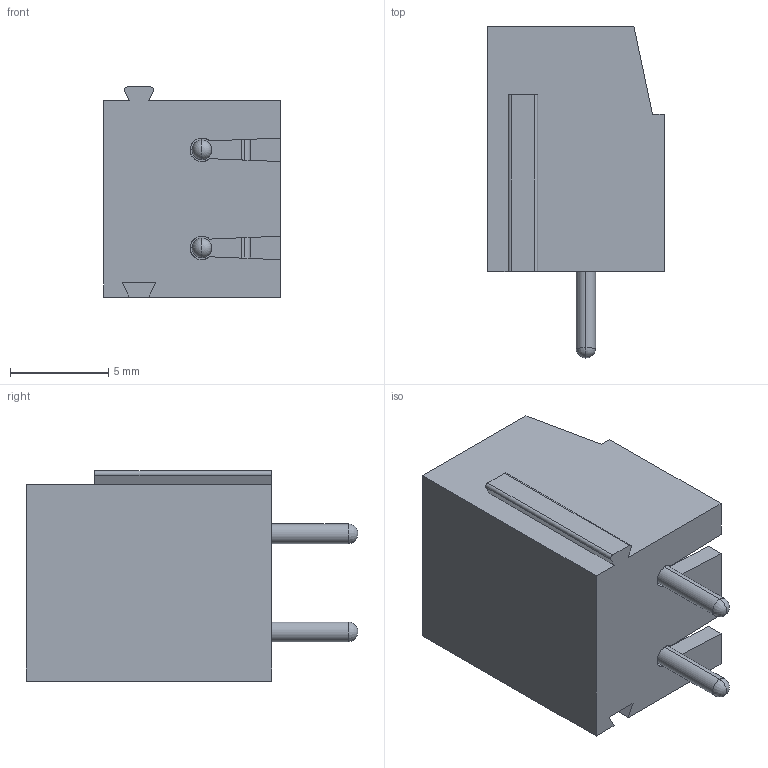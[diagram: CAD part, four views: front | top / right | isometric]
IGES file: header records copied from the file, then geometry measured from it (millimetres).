
Start section: SolidWorks IGES file using analytic representation for surfaces
Global section: file name: D:\OneDrive\00_MOITECH\01_Projects\2020\Metaltex\Modeling\Componentes\BR0\\_Dn\BR002.IGS; native system: SolidWorks 2019; preprocessor: SolidWorks 2019; author: Alan; date: 200220.003256; units: millimetre
Bounding box: 9 x 16.9 x 10.7 mm (x, y, z)
Surface area: 1147.4 mm2 (no closed solid volume)
Topology: 0 solids, 0 shells, 156 faces, 1412 edges, 1408 vertices
Faces by surface type: bspline 98, revolution 58
